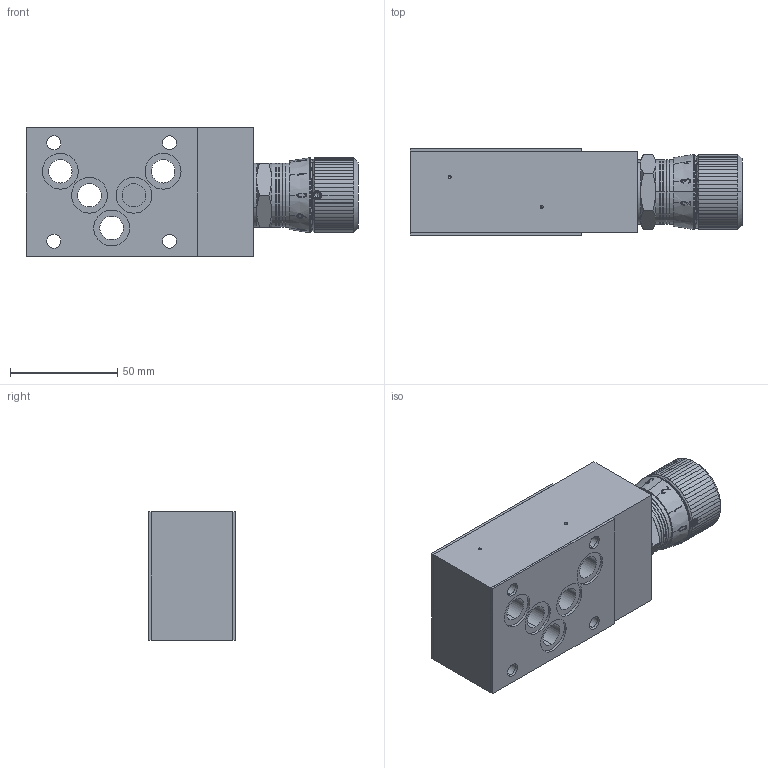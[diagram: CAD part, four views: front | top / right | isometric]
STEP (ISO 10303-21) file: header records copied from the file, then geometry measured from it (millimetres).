
FILE_DESCRIPTION (( 'STEP AP214' ), '1' );
FILE_NAME ('AURDVB10.STEP', '2017-04-12T14:07:10', ( '' ), ( '' ), 'SwSTEP 2.0', 'SolidWorks 2016', '' );
FILE_SCHEMA (( 'AUTOMOTIVE_DESIGN' ));
Length unit declared in the file: millimetre
Products named in the file (1): AURDVB10
Bounding box: 155 x 40.5 x 60 mm (x, y, z)
Volume: 270739.7 mm3; surface area: 57092 mm2
Topology: 3 solids, 4 shells, 985 faces, 2731 edges, 1786 vertices
Faces by surface type: plane 580, cylinder 198, bspline 118, cone 73, torus 16
Entity records: 56635 total; most frequent: CARTESIAN_POINT 22557, ORIENTED_EDGE 5442, DIRECTION 4028, EDGE_CURVE 2721, VERTEX_POINT 1786, AXIS2_PLACEMENT_3D 1525, EDGE_LOOP 1081, B_SPLINE_CURVE_WITH_KNOTS 1040
